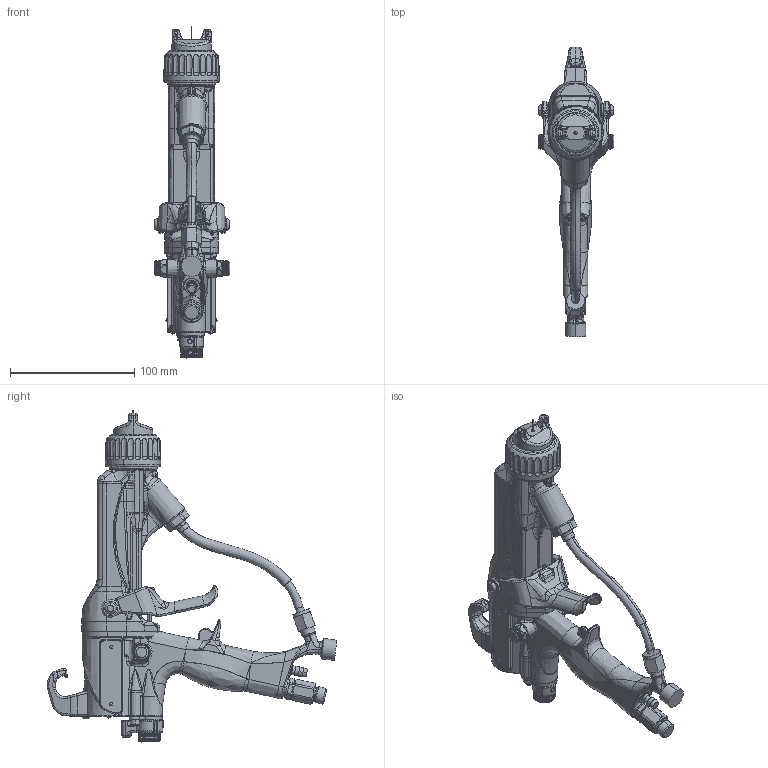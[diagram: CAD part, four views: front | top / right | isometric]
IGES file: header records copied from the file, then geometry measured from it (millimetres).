
Start section:  PTC IGES file: l85t10-en-u.igs
Global section: file name: l85t10-en-u.igs; native system: Creo Parametric by PTC Inc.; preprocessor: 2019030; author: qusrh3; organization: Unknown; date: 20200518.163626; units: inch
Bounding box: 61.15 x 233.22 x 267.23 mm (x, y, z)
Surface area: 93301.3 mm2 (no closed solid volume)
Topology: 0 solids, 0 shells, 2654 faces, 13343 edges, 13334 vertices
Faces by surface type: bspline 1427, revolution 1219, extrusion 8
